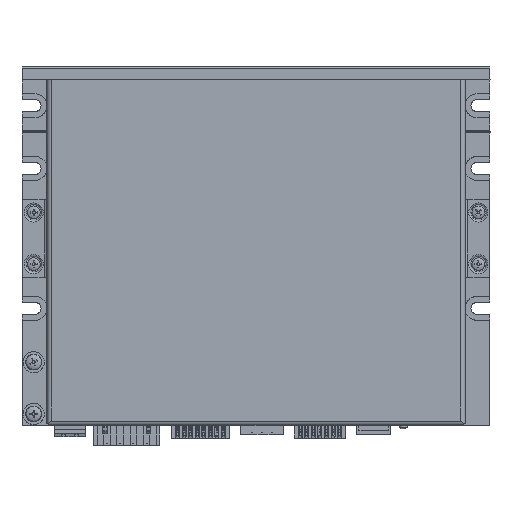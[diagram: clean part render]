
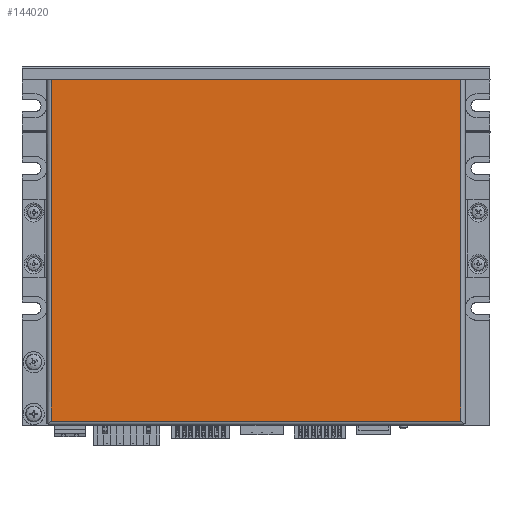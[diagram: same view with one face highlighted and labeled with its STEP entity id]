
A CAD part, top view. The second image highlights one B-rep face of the part: STEP entity #144020.
In plain terms, the highlighted planar face has unit normal (0, 0, 1).
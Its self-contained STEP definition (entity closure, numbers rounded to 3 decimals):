
#17511=LINE('',#224895,#30214);
#17538=LINE('',#224994,#30241);
#17539=LINE('',#224996,#30242);
#17540=LINE('',#224998,#30243);
#30214=VECTOR('',#184047,1000.);
#30241=VECTOR('',#184164,1000.);
#30242=VECTOR('',#184165,1000.);
#30243=VECTOR('',#184166,1000.);
#62847=ORIENTED_EDGE('',*,*,#79656,.T.);
#62848=ORIENTED_EDGE('',*,*,#79657,.T.);
#62849=ORIENTED_EDGE('',*,*,#79658,.T.);
#62850=ORIENTED_EDGE('',*,*,#79610,.T.);
#79610=EDGE_CURVE('',#90640,#90639,#17511,.T.);
#79656=EDGE_CURVE('',#90639,#90667,#17538,.T.);
#79657=EDGE_CURVE('',#90667,#90668,#17539,.T.);
#79658=EDGE_CURVE('',#90668,#90640,#17540,.T.);
#90639=VERTEX_POINT('',#224894);
#90640=VERTEX_POINT('',#224896);
#90667=VERTEX_POINT('',#224995);
#90668=VERTEX_POINT('',#224997);
#98787=EDGE_LOOP('',(#62847,#62848,#62849,#62850));
#106214=FACE_BOUND('',#98787,.T.);
#110919=PLANE('',#153326);
#144020=ADVANCED_FACE('',(#106214),#110919,.T.);
#153326=AXIS2_PLACEMENT_3D('',#224993,#184162,#184163);
#184047=DIRECTION('',(-1.,0.,0.));
#184162=DIRECTION('',(0.,0.,1.));
#184163=DIRECTION('',(1.,0.,0.));
#184164=DIRECTION('',(0.,-1.,0.));
#184165=DIRECTION('',(1.,0.,0.));
#184166=DIRECTION('',(0.,1.,0.));
#224894=CARTESIAN_POINT('',(-79.05,66.75,0.));
#224895=CARTESIAN_POINT('',(80.75,66.75,0.));
#224896=CARTESIAN_POINT('',(79.05,66.75,0.));
#224993=CARTESIAN_POINT('',(0.,0.,0.));
#224994=CARTESIAN_POINT('',(-79.05,66.75,0.));
#224995=CARTESIAN_POINT('',(-79.05,-65.05,0.));
#224996=CARTESIAN_POINT('',(-79.05,-65.05,0.));
#224997=CARTESIAN_POINT('',(79.05,-65.05,0.));
#224998=CARTESIAN_POINT('',(79.05,-66.75,0.));
